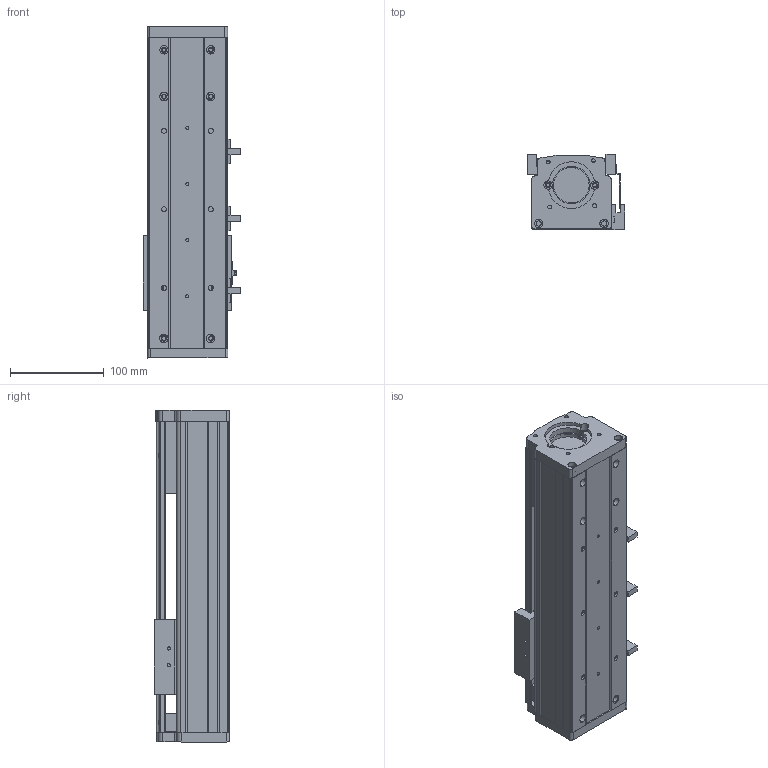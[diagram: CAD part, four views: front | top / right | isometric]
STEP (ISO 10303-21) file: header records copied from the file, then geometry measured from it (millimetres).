
FILE_DESCRIPTION (( 'STEP AP214' ), '1' );
FILE_NAME ('CF86-C-100-FW.STEP', '2020-01-15T07:51:37', ( '微软用户' ), ( '微软中国' ), 'SwSTEP 2.0', 'SolidWorks 2016', '' );
FILE_SCHEMA (( 'AUTOMOTIVE_DESIGN' ));
Length unit declared in the file: millimetre
Products named in the file (12): 02 86盓傅釱; 01 86嘐隅釱; EGW15CA賑輸; EGR15絳寢-100; 86臏倰第-100; 86裔啣-100; 86耜啣; CF86-C-100-FW; 嫖萇羲壽; 75-86-95癹弇羲壽覜茼え; 86-60侜督萇儂釱(蜊輛); CF86賑輸
Assembly tree (13 placements, depth 2):
  CF86-C-100-FW
    86耜啣
    86裔啣-100
    86臏倰第-100
    EGR15絳寢-100
    EGW15CA賑輸
    01 86嘐隅釱
    02 86盓傅釱
    CF86賑輸
    86-60侜督萇儂釱(蜊輛)
    75-86-95癹弇羲壽覜茼え
    嫖萇羲壽  x3
Bounding box: 103.85 x 81 x 355 mm (x, y, z)
Volume: 1283492.2 mm3; surface area: 379574.9 mm2
Topology: 13 solids, 13 shells, 622 faces, 1660 edges, 1104 vertices
Faces by surface type: plane 345, cylinder 277
Entity records: 19628 total; most frequent: CARTESIAN_POINT 3318, DIRECTION 3194, ORIENTED_EDGE 3032, EDGE_CURVE 1516, AXIS2_PLACEMENT_3D 1124, VERTEX_POINT 1008, LINE 946, VECTOR 946
